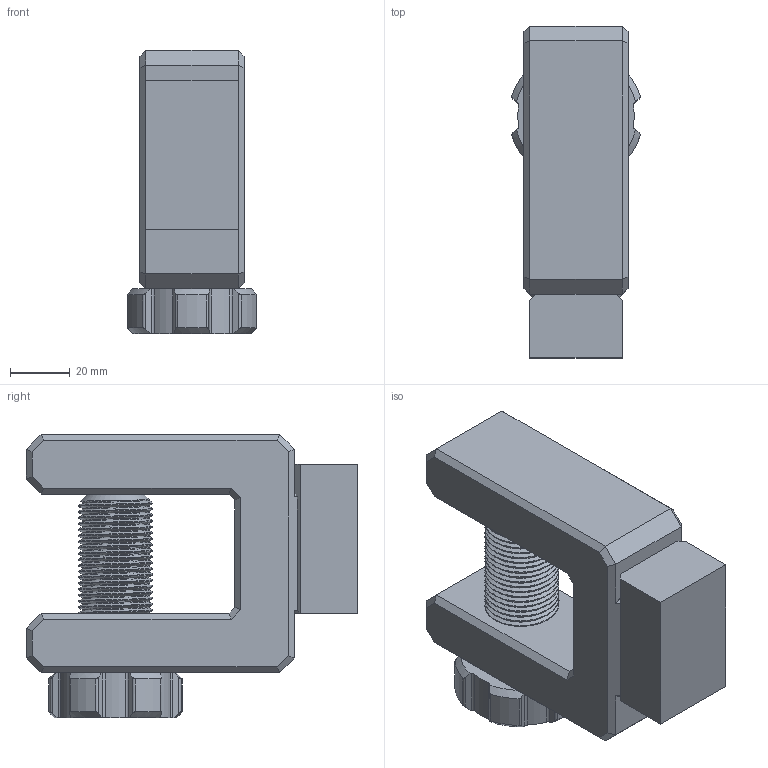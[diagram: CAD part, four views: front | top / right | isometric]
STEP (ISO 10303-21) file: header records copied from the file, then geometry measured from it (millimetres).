
FILE_DESCRIPTION(/* description */ (''),/* implementation_level */ '2;1');
FILE_NAME(/* name */ 'Modular Clamp V1 - no tolerance v2.step',/* time_stamp */ '2023-06-19T21:53:04+02:00',/* author */ (''),/* organization */ (''),/* preprocessor_version */ 'ST-DEVELOPER v19.2',/* originating_system */ 'Autodesk Translation Framework v12.6.0.85',/* authorisation */ '');
FILE_SCHEMA (('AUTOMOTIVE_DESIGN { 1 0 10303 214 3 1 1 }'));
Length unit declared in the file: millimetre
Products named in the file (1): Modular Clamp V1 - no tolerance
Bounding box: 43.03 x 111.26 x 95 mm (x, y, z)
Volume: 219912 mm3; surface area: 48139.4 mm2
Topology: 3 solids, 3 shells, 281 faces, 772 edges, 496 vertices
Faces by surface type: cylinder 122, plane 112, bspline 25, cone 22
Full cylindrical faces by diameter (mm): 22.529 x28, 24.822 x28
Entity records: 18208 total; most frequent: CARTESIAN_POINT 11604, ORIENTED_EDGE 1544, DIRECTION 1107, EDGE_CURVE 772, VERTEX_POINT 496, LINE 421, VECTOR 421, AXIS2_PLACEMENT_3D 343
